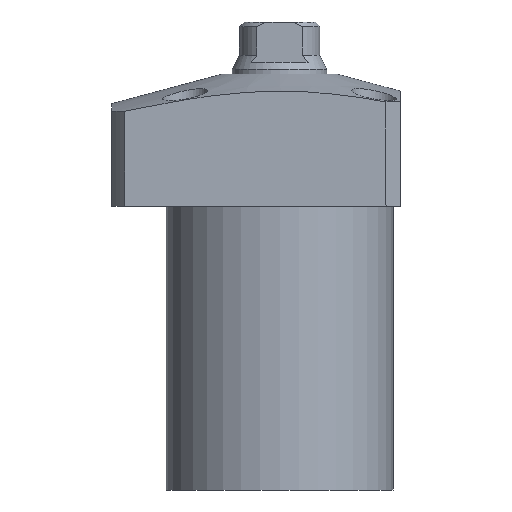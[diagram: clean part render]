
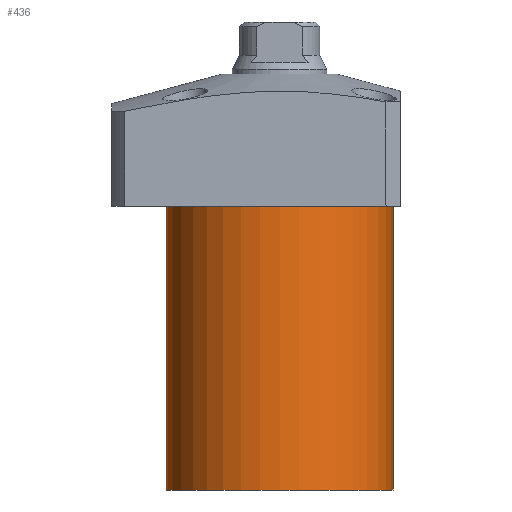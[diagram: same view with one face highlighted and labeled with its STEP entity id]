
A CAD part, front view. The second image highlights one B-rep face of the part: STEP entity #436.
In plain terms, the highlighted cylindrical face has radius 24 mm (diameter 48 mm), a partial arc.
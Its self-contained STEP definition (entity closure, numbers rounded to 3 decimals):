
#182 = CARTESIAN_POINT ( 'NONE',  ( -24., 0., -14. ) ) ;
#224 = CARTESIAN_POINT ( 'NONE',  ( 0., 0., -14. ) ) ;
#320 = LINE ( 'NONE', #1665, #338 ) ;
#338 = VECTOR ( 'NONE', #525, 1000. ) ;
#359 = EDGE_CURVE ( 'NONE', #1848, #1421, #1957, .T. ) ;
#427 = CARTESIAN_POINT ( 'NONE',  ( 24., 0., -14. ) ) ;
#430 = ORIENTED_EDGE ( 'NONE', *, *, #1881, .T. ) ;
#436 = ADVANCED_FACE ( 'NONE', ( #1376 ), #1664, .T. ) ;
#467 = ORIENTED_EDGE ( 'NONE', *, *, #492, .F. ) ;
#492 = EDGE_CURVE ( 'NONE', #1479, #1897, #320, .T. ) ;
#503 = VECTOR ( 'NONE', #2013, 1000. ) ;
#525 = DIRECTION ( 'NONE',  ( 0., 0., 1. ) ) ;
#571 = ORIENTED_EDGE ( 'NONE', *, *, #359, .T. ) ;
#732 = AXIS2_PLACEMENT_3D ( 'NONE', #224, #2127, #1554 ) ;
#738 = EDGE_LOOP ( 'NONE', ( #467, #994, #571, #430 ) ) ;
#741 = CARTESIAN_POINT ( 'NONE',  ( -24., 0., -74. ) ) ;
#759 = CIRCLE ( 'NONE', #732, 24. ) ;
#994 = ORIENTED_EDGE ( 'NONE', *, *, #1216, .F. ) ;
#1000 = CARTESIAN_POINT ( 'NONE',  ( 0., 0., -74. ) ) ;
#1055 = CARTESIAN_POINT ( 'NONE',  ( 24., 0., -74. ) ) ;
#1070 = DIRECTION ( 'NONE',  ( 0., 0., 1. ) ) ;
#1216 = EDGE_CURVE ( 'NONE', #1848, #1479, #2400, .T. ) ;
#1279 = DIRECTION ( 'NONE',  ( 1., 0., 0. ) ) ;
#1303 = AXIS2_PLACEMENT_3D ( 'NONE', #1458, #1070, #1279 ) ;
#1305 = AXIS2_PLACEMENT_3D ( 'NONE', #1000, #1544, #1981 ) ;
#1376 = FACE_OUTER_BOUND ( 'NONE', #738, .T. ) ;
#1421 = VERTEX_POINT ( 'NONE', #427 ) ;
#1458 = CARTESIAN_POINT ( 'NONE',  ( 0., 0., -74. ) ) ;
#1479 = VERTEX_POINT ( 'NONE', #741 ) ;
#1544 = DIRECTION ( 'NONE',  ( 0., 0., -1. ) ) ;
#1554 = DIRECTION ( 'NONE',  ( 1., 0., 0. ) ) ;
#1664 = CYLINDRICAL_SURFACE ( 'NONE', #1303, 24. ) ;
#1665 = CARTESIAN_POINT ( 'NONE',  ( -24., 0., -74. ) ) ;
#1848 = VERTEX_POINT ( 'NONE', #2117 ) ;
#1881 = EDGE_CURVE ( 'NONE', #1421, #1897, #759, .T. ) ;
#1897 = VERTEX_POINT ( 'NONE', #182 ) ;
#1957 = LINE ( 'NONE', #1055, #503 ) ;
#1981 = DIRECTION ( 'NONE',  ( -1., 0., 0. ) ) ;
#2013 = DIRECTION ( 'NONE',  ( 0., 0., 1. ) ) ;
#2117 = CARTESIAN_POINT ( 'NONE',  ( 24., 0., -74. ) ) ;
#2127 = DIRECTION ( 'NONE',  ( 0., 0., -1. ) ) ;
#2400 = CIRCLE ( 'NONE', #1305, 24. ) ;
